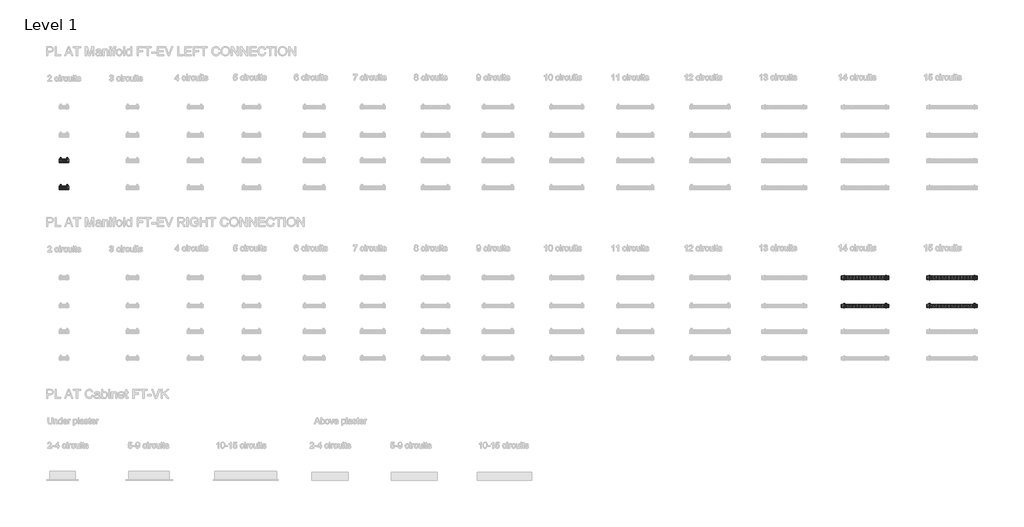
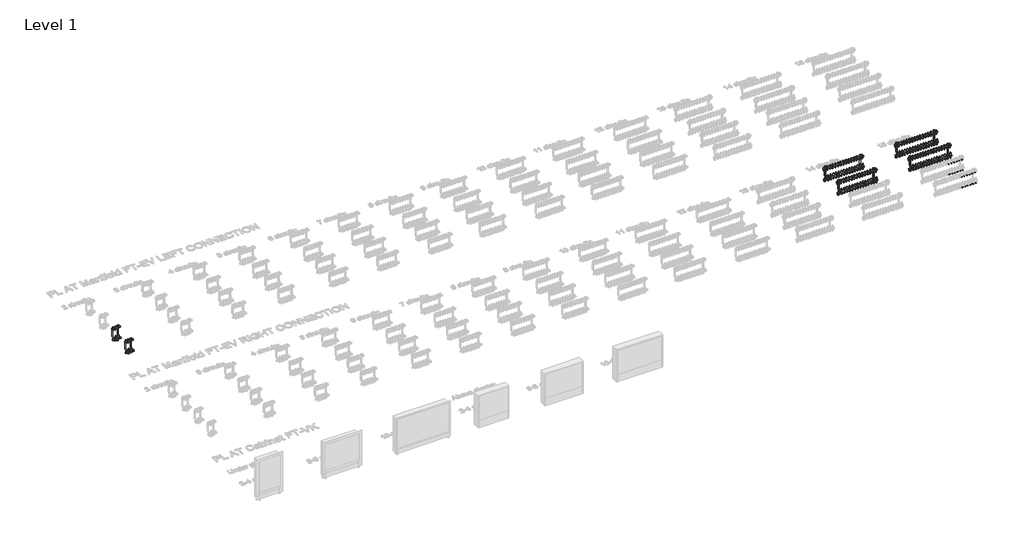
# One storey, part 7 of 23: 141 pipe fittings, 6 valves.
"""IFC4 building model written with IfcOpenShell, lengths in millimetres."""

from ifc_helpers import new_model, si_unit, origin, place, context, project, spatial, transform, mapped, element, save
from components import pipe_fitting_03c6499f, valve_7f0c1a37, valve_5ad404c9, valve_4cbf1be7, valve_3248c627, valve_ecf45875, valve_c563ffe1, valve_e7cc262d, valve_94d66b99, valve_c404d8d8

model = new_model("IFC4")

# Units and contexts
model_context = context("Model", 3, world=origin())
ifc_project = project(units=[si_unit("LENGTHUNIT", "METRE", prefix="MILLI")], contexts=[model_context])

# Site, building, storey
site = spatial("IfcSite", under=ifc_project)
building = spatial("IfcBuilding", under=site)
storey = spatial("IfcBuildingStorey", under=building, Name="Level 1", Elevation=0.0)

# Pipe fittings
placement = place(None, origin())
pipe_fitting_shape = pipe_fitting_03c6499f(model_context)
element("IfcPipeFitting", 1, ObjectType="Euroconus screwing for multilayer pipes - Manifold FT : Euroconus screwing for multilayer pipes - Manifold FT", at=placement, inside=storey, context=model_context, shape_type="MappedRepresentation", body=[
    mapped(pipe_fitting_shape, transform((1334.9796862, 755.3040686, 62.88733), x_axis=(0.0, 0.0, -1.0), y_axis=(0.0, 1.0000000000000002, 0.0), z_axis=(1.0000000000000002, 0.0, 0.0))),
])
element("IfcPipeFitting", 2, ObjectType="Euroconus screwing for multilayer pipes - Manifold FT : Euroconus screwing for multilayer pipes - Manifold FT", at=placement, inside=storey, context=model_context, shape_type="MappedRepresentation", body=[
    mapped(pipe_fitting_shape, transform((14760.6719939, -1164.6959314, 62.88733), x_axis=(0.0, 0.0, -1.0), y_axis=(0.0, 1.0000000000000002, 0.0), z_axis=(1.0000000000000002, 0.0, 0.0))),
])
element("IfcPipeFitting", 3, ObjectType="Euroconus screwing for multilayer pipes - Manifold FT : Euroconus screwing for multilayer pipes - Manifold FT", at=placement, inside=storey, context=model_context, shape_type="MappedRepresentation", body=[
    mapped(pipe_fitting_shape, transform((14708.3643015, -1164.6959314, 62.88733), x_axis=(0.0, 0.0, -1.0), y_axis=(0.0, 1.0000000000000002, 0.0), z_axis=(1.0000000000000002, 0.0, 0.0))),
])
element("IfcPipeFitting", 4, ObjectType="Euroconus screwing for multilayer pipes - Manifold FT : Euroconus screwing for multilayer pipes - Manifold FT", at=placement, inside=storey, context=model_context, shape_type="MappedRepresentation", body=[
    mapped(pipe_fitting_shape, transform((14656.0566092, -1164.6959314, 62.88733), x_axis=(0.0, 0.0, -1.0), y_axis=(0.0, 1.0000000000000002, 0.0), z_axis=(1.0000000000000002, 0.0, 0.0))),
])
element("IfcPipeFitting", 5, ObjectType="Euroconus screwing for multilayer pipes - Manifold FT : Euroconus screwing for multilayer pipes - Manifold FT", at=placement, inside=storey, context=model_context, shape_type="MappedRepresentation", body=[
    mapped(pipe_fitting_shape, transform((14603.7489169, -1164.6959314, 62.88733), x_axis=(0.0, 0.0, -1.0), y_axis=(0.0, 1.0000000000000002, 0.0), z_axis=(1.0000000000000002, 0.0, 0.0))),
])
element("IfcPipeFitting", 6, ObjectType="Euroconus screwing for multilayer pipes - Manifold FT : Euroconus screwing for multilayer pipes - Manifold FT", at=placement, inside=storey, context=model_context, shape_type="MappedRepresentation", body=[
    mapped(pipe_fitting_shape, transform((14551.4412246, -1164.6959314, 62.88733), x_axis=(0.0, 0.0, -1.0), y_axis=(0.0, 1.0000000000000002, 0.0), z_axis=(1.0000000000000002, 0.0, 0.0))),
])
element("IfcPipeFitting", 7, ObjectType="Euroconus screwing for multilayer pipes - Manifold FT : Euroconus screwing for multilayer pipes - Manifold FT", at=placement, inside=storey, context=model_context, shape_type="MappedRepresentation", body=[
    mapped(pipe_fitting_shape, transform((14499.1335323, -1164.6959314, 62.88733), x_axis=(0.0, 0.0, -1.0), y_axis=(0.0, 1.0000000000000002, 0.0), z_axis=(1.0000000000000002, 0.0, 0.0))),
])
element("IfcPipeFitting", 8, ObjectType="Euroconus screwing for multilayer pipes - Manifold FT : Euroconus screwing for multilayer pipes - Manifold FT", at=placement, inside=storey, context=model_context, shape_type="MappedRepresentation", body=[
    mapped(pipe_fitting_shape, transform((14446.82584, -1164.6959314, 62.88733), x_axis=(0.0, 0.0, -1.0), y_axis=(0.0, 1.0000000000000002, 0.0), z_axis=(1.0000000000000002, 0.0, 0.0))),
])
element("IfcPipeFitting", 9, ObjectType="Euroconus screwing for multilayer pipes - Manifold FT : Euroconus screwing for multilayer pipes - Manifold FT", at=placement, inside=storey, context=model_context, shape_type="MappedRepresentation", body=[
    mapped(pipe_fitting_shape, transform((14394.5181477, -1164.6959314, 62.88733), x_axis=(0.0, 0.0, -1.0), y_axis=(0.0, 1.0000000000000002, 0.0), z_axis=(1.0000000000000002, 0.0, 0.0))),
])
element("IfcPipeFitting", 10, ObjectType="Euroconus screwing for multilayer pipes - Manifold FT : Euroconus screwing for multilayer pipes - Manifold FT", at=placement, inside=storey, context=model_context, shape_type="MappedRepresentation", body=[
    mapped(pipe_fitting_shape, transform((14342.2104554, -1164.6959314, 62.88733), x_axis=(0.0, 0.0, -1.0), y_axis=(0.0, 1.0000000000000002, 0.0), z_axis=(1.0000000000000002, 0.0, 0.0))),
])
element("IfcPipeFitting", 11, ObjectType="Euroconus screwing for multilayer pipes - Manifold FT : Euroconus screwing for multilayer pipes - Manifold FT", at=placement, inside=storey, context=model_context, shape_type="MappedRepresentation", body=[
    mapped(pipe_fitting_shape, transform((14289.9027631, -1164.6959314, 62.88733), x_axis=(0.0, 0.0, -1.0), y_axis=(0.0, 1.0000000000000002, 0.0), z_axis=(1.0000000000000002, 0.0, 0.0))),
])
element("IfcPipeFitting", 12, ObjectType="Euroconus screwing for multilayer pipes - Manifold FT : Euroconus screwing for multilayer pipes - Manifold FT", at=placement, inside=storey, context=model_context, shape_type="MappedRepresentation", body=[
    mapped(pipe_fitting_shape, transform((14237.5950708, -1164.6959314, 62.88733), x_axis=(0.0, 0.0, -1.0), y_axis=(0.0, 1.0000000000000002, 0.0), z_axis=(1.0000000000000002, 0.0, 0.0))),
])
element("IfcPipeFitting", 13, ObjectType="Euroconus screwing for multilayer pipes - Manifold FT : Euroconus screwing for multilayer pipes - Manifold FT", at=placement, inside=storey, context=model_context, shape_type="MappedRepresentation", body=[
    mapped(pipe_fitting_shape, transform((14185.2873785, -1164.6959314, 62.88733), x_axis=(0.0, 0.0, -1.0), y_axis=(0.0, 1.0000000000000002, 0.0), z_axis=(1.0000000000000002, 0.0, 0.0))),
])
element("IfcPipeFitting", 14, ObjectType="Euroconus screwing for multilayer pipes - Manifold FT : Euroconus screwing for multilayer pipes - Manifold FT", at=placement, inside=storey, context=model_context, shape_type="MappedRepresentation", body=[
    mapped(pipe_fitting_shape, transform((14812.9796862, -1164.6959314, 62.88733), x_axis=(0.0, 0.0, -1.0), y_axis=(0.0, 1.0000000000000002, 0.0), z_axis=(1.0000000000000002, 0.0, 0.0))),
])
element("IfcPipeFitting", 15, ObjectType="Euroconus screwing for multilayer pipes - Manifold FT : Euroconus screwing for multilayer pipes - Manifold FT", at=placement, inside=storey, context=model_context, shape_type="MappedRepresentation", body=[
    mapped(pipe_fitting_shape, transform((14760.6719939, -1139.6959314, 262.88733), x_axis=(0.0, 0.0, -1.0), y_axis=(0.0, 1.0000000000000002, 0.0), z_axis=(1.0000000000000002, 0.0, 0.0))),
])
element("IfcPipeFitting", 16, ObjectType="Euroconus screwing for multilayer pipes - Manifold FT : Euroconus screwing for multilayer pipes - Manifold FT", at=placement, inside=storey, context=model_context, shape_type="MappedRepresentation", body=[
    mapped(pipe_fitting_shape, transform((14708.3643015, -1139.6959314, 262.88733), x_axis=(0.0, 0.0, -1.0), y_axis=(0.0, 1.0000000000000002, 0.0), z_axis=(1.0000000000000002, 0.0, 0.0))),
])
element("IfcPipeFitting", 17, ObjectType="Euroconus screwing for multilayer pipes - Manifold FT : Euroconus screwing for multilayer pipes - Manifold FT", at=placement, inside=storey, context=model_context, shape_type="MappedRepresentation", body=[
    mapped(pipe_fitting_shape, transform((14656.0566092, -1139.6959314, 262.88733), x_axis=(0.0, 0.0, -1.0), y_axis=(0.0, 1.0000000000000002, 0.0), z_axis=(1.0000000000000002, 0.0, 0.0))),
])
element("IfcPipeFitting", 18, ObjectType="Euroconus screwing for multilayer pipes - Manifold FT : Euroconus screwing for multilayer pipes - Manifold FT", at=placement, inside=storey, context=model_context, shape_type="MappedRepresentation", body=[
    mapped(pipe_fitting_shape, transform((14603.7489169, -1139.6959314, 262.88733), x_axis=(0.0, 0.0, -1.0), y_axis=(0.0, 1.0000000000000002, 0.0), z_axis=(1.0000000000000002, 0.0, 0.0))),
])
element("IfcPipeFitting", 19, ObjectType="Euroconus screwing for multilayer pipes - Manifold FT : Euroconus screwing for multilayer pipes - Manifold FT", at=placement, inside=storey, context=model_context, shape_type="MappedRepresentation", body=[
    mapped(pipe_fitting_shape, transform((14551.4412246, -1139.6959314, 262.88733), x_axis=(0.0, 0.0, -1.0), y_axis=(0.0, 1.0000000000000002, 0.0), z_axis=(1.0000000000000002, 0.0, 0.0))),
])
element("IfcPipeFitting", 20, ObjectType="Euroconus screwing for multilayer pipes - Manifold FT : Euroconus screwing for multilayer pipes - Manifold FT", at=placement, inside=storey, context=model_context, shape_type="MappedRepresentation", body=[
    mapped(pipe_fitting_shape, transform((14499.1335323, -1139.6959314, 262.88733), x_axis=(0.0, 0.0, -1.0), y_axis=(0.0, 1.0000000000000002, 0.0), z_axis=(1.0000000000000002, 0.0, 0.0))),
])
element("IfcPipeFitting", 21, ObjectType="Euroconus screwing for multilayer pipes - Manifold FT : Euroconus screwing for multilayer pipes - Manifold FT", at=placement, inside=storey, context=model_context, shape_type="MappedRepresentation", body=[
    mapped(pipe_fitting_shape, transform((14446.82584, -1139.6959314, 262.88733), x_axis=(0.0, 0.0, -1.0), y_axis=(0.0, 1.0000000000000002, 0.0), z_axis=(1.0000000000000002, 0.0, 0.0))),
])
element("IfcPipeFitting", 22, ObjectType="Euroconus screwing for multilayer pipes - Manifold FT : Euroconus screwing for multilayer pipes - Manifold FT", at=placement, inside=storey, context=model_context, shape_type="MappedRepresentation", body=[
    mapped(pipe_fitting_shape, transform((14394.5181477, -1139.6959314, 262.88733), x_axis=(0.0, 0.0, -1.0), y_axis=(0.0, 1.0000000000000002, 0.0), z_axis=(1.0000000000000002, 0.0, 0.0))),
])
element("IfcPipeFitting", 23, ObjectType="Euroconus screwing for multilayer pipes - Manifold FT : Euroconus screwing for multilayer pipes - Manifold FT", at=placement, inside=storey, context=model_context, shape_type="MappedRepresentation", body=[
    mapped(pipe_fitting_shape, transform((14342.2104554, -1139.6959314, 262.88733), x_axis=(0.0, 0.0, -1.0), y_axis=(0.0, 1.0000000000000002, 0.0), z_axis=(1.0000000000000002, 0.0, 0.0))),
])
element("IfcPipeFitting", 24, ObjectType="Euroconus screwing for multilayer pipes - Manifold FT : Euroconus screwing for multilayer pipes - Manifold FT", at=placement, inside=storey, context=model_context, shape_type="MappedRepresentation", body=[
    mapped(pipe_fitting_shape, transform((14289.9027631, -1139.6959314, 262.88733), x_axis=(0.0, 0.0, -1.0), y_axis=(0.0, 1.0000000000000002, 0.0), z_axis=(1.0000000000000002, 0.0, 0.0))),
])
element("IfcPipeFitting", 25, ObjectType="Euroconus screwing for multilayer pipes - Manifold FT : Euroconus screwing for multilayer pipes - Manifold FT", at=placement, inside=storey, context=model_context, shape_type="MappedRepresentation", body=[
    mapped(pipe_fitting_shape, transform((14237.5950708, -1139.6959314, 262.88733), x_axis=(0.0, 0.0, -1.0), y_axis=(0.0, 1.0000000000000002, 0.0), z_axis=(1.0000000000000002, 0.0, 0.0))),
])
element("IfcPipeFitting", 26, ObjectType="Euroconus screwing for multilayer pipes - Manifold FT : Euroconus screwing for multilayer pipes - Manifold FT", at=placement, inside=storey, context=model_context, shape_type="MappedRepresentation", body=[
    mapped(pipe_fitting_shape, transform((14185.2873785, -1139.6959314, 262.88733), x_axis=(0.0, 0.0, -1.0), y_axis=(0.0, 1.0000000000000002, 0.0), z_axis=(1.0000000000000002, 0.0, 0.0))),
])
element("IfcPipeFitting", 27, ObjectType="Euroconus screwing for multilayer pipes - Manifold FT : Euroconus screwing for multilayer pipes - Manifold FT", at=placement, inside=storey, context=model_context, shape_type="MappedRepresentation", body=[
    mapped(pipe_fitting_shape, transform((14812.9796862, -1139.6959314, 262.88733), x_axis=(0.0, 0.0, -1.0), y_axis=(0.0, 1.0000000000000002, 0.0), z_axis=(1.0000000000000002, 0.0, 0.0))),
])
element("IfcPipeFitting", 28, ObjectType="Euroconus screwing for multilayer pipes - Manifold FT : Euroconus screwing for multilayer pipes - Manifold FT", at=placement, inside=storey, context=model_context, shape_type="MappedRepresentation", body=[
    mapped(pipe_fitting_shape, transform((14132.9796862, -1164.6959314, 62.88733), x_axis=(0.0, 0.0, -1.0), y_axis=(0.0, 1.0000000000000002, 0.0), z_axis=(1.0000000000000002, 0.0, 0.0))),
])
element("IfcPipeFitting", 29, ObjectType="Euroconus screwing for multilayer pipes - Manifold FT : Euroconus screwing for multilayer pipes - Manifold FT", at=placement, inside=storey, context=model_context, shape_type="MappedRepresentation", body=[
    mapped(pipe_fitting_shape, transform((14132.9796862, -1139.6959314, 262.88733), x_axis=(0.0, 0.0, -1.0), y_axis=(0.0, 1.0000000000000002, 0.0), z_axis=(1.0000000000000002, 0.0, 0.0))),
])
element("IfcPipeFitting", 30, ObjectType="Euroconus screwing for multilayer pipes - Manifold FT : Euroconus screwing for multilayer pipes - Manifold FT", at=placement, inside=storey, context=model_context, shape_type="MappedRepresentation", body=[
    mapped(pipe_fitting_shape, transform((16210.836829, -1164.6959314, 62.88733), x_axis=(0.0, 0.0, -1.0), y_axis=(0.0, 1.0000000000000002, 0.0), z_axis=(1.0000000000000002, 0.0, 0.0))),
])
element("IfcPipeFitting", 31, ObjectType="Euroconus screwing for multilayer pipes - Manifold FT : Euroconus screwing for multilayer pipes - Manifold FT", at=placement, inside=storey, context=model_context, shape_type="MappedRepresentation", body=[
    mapped(pipe_fitting_shape, transform((16158.6939719, -1164.6959314, 62.88733), x_axis=(0.0, 0.0, -1.0), y_axis=(0.0, 1.0000000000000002, 0.0), z_axis=(1.0000000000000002, 0.0, 0.0))),
])
element("IfcPipeFitting", 32, ObjectType="Euroconus screwing for multilayer pipes - Manifold FT : Euroconus screwing for multilayer pipes - Manifold FT", at=placement, inside=storey, context=model_context, shape_type="MappedRepresentation", body=[
    mapped(pipe_fitting_shape, transform((16106.5511147, -1164.6959314, 62.88733), x_axis=(0.0, 0.0, -1.0), y_axis=(0.0, 1.0000000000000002, 0.0), z_axis=(1.0000000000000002, 0.0, 0.0))),
])
element("IfcPipeFitting", 33, ObjectType="Euroconus screwing for multilayer pipes - Manifold FT : Euroconus screwing for multilayer pipes - Manifold FT", at=placement, inside=storey, context=model_context, shape_type="MappedRepresentation", body=[
    mapped(pipe_fitting_shape, transform((16054.4082576, -1164.6959314, 62.88733), x_axis=(0.0, 0.0, -1.0), y_axis=(0.0, 1.0000000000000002, 0.0), z_axis=(1.0000000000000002, 0.0, 0.0))),
])
element("IfcPipeFitting", 34, ObjectType="Euroconus screwing for multilayer pipes - Manifold FT : Euroconus screwing for multilayer pipes - Manifold FT", at=placement, inside=storey, context=model_context, shape_type="MappedRepresentation", body=[
    mapped(pipe_fitting_shape, transform((16002.2654004, -1164.6959314, 62.88733), x_axis=(0.0, 0.0, -1.0), y_axis=(0.0, 1.0000000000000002, 0.0), z_axis=(1.0000000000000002, 0.0, 0.0))),
])
element("IfcPipeFitting", 35, ObjectType="Euroconus screwing for multilayer pipes - Manifold FT : Euroconus screwing for multilayer pipes - Manifold FT", at=placement, inside=storey, context=model_context, shape_type="MappedRepresentation", body=[
    mapped(pipe_fitting_shape, transform((15950.1225433, -1164.6959314, 62.88733), x_axis=(0.0, 0.0, -1.0), y_axis=(0.0, 1.0000000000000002, 0.0), z_axis=(1.0000000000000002, 0.0, 0.0))),
])
element("IfcPipeFitting", 36, ObjectType="Euroconus screwing for multilayer pipes - Manifold FT : Euroconus screwing for multilayer pipes - Manifold FT", at=placement, inside=storey, context=model_context, shape_type="MappedRepresentation", body=[
    mapped(pipe_fitting_shape, transform((15897.9796862, -1164.6959314, 62.88733), x_axis=(0.0, 0.0, -1.0), y_axis=(0.0, 1.0000000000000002, 0.0), z_axis=(1.0000000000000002, 0.0, 0.0))),
])
element("IfcPipeFitting", 37, ObjectType="Euroconus screwing for multilayer pipes - Manifold FT : Euroconus screwing for multilayer pipes - Manifold FT", at=placement, inside=storey, context=model_context, shape_type="MappedRepresentation", body=[
    mapped(pipe_fitting_shape, transform((15845.836829, -1164.6959314, 62.88733), x_axis=(0.0, 0.0, -1.0), y_axis=(0.0, 1.0000000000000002, 0.0), z_axis=(1.0000000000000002, 0.0, 0.0))),
])
element("IfcPipeFitting", 38, ObjectType="Euroconus screwing for multilayer pipes - Manifold FT : Euroconus screwing for multilayer pipes - Manifold FT", at=placement, inside=storey, context=model_context, shape_type="MappedRepresentation", body=[
    mapped(pipe_fitting_shape, transform((15793.6939719, -1164.6959314, 62.88733), x_axis=(0.0, 0.0, -1.0), y_axis=(0.0, 1.0000000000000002, 0.0), z_axis=(1.0000000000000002, 0.0, 0.0))),
])
element("IfcPipeFitting", 39, ObjectType="Euroconus screwing for multilayer pipes - Manifold FT : Euroconus screwing for multilayer pipes - Manifold FT", at=placement, inside=storey, context=model_context, shape_type="MappedRepresentation", body=[
    mapped(pipe_fitting_shape, transform((15741.5511147, -1164.6959314, 62.88733), x_axis=(0.0, 0.0, -1.0), y_axis=(0.0, 1.0000000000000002, 0.0), z_axis=(1.0000000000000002, 0.0, 0.0))),
])
element("IfcPipeFitting", 40, ObjectType="Euroconus screwing for multilayer pipes - Manifold FT : Euroconus screwing for multilayer pipes - Manifold FT", at=placement, inside=storey, context=model_context, shape_type="MappedRepresentation", body=[
    mapped(pipe_fitting_shape, transform((15689.4082576, -1164.6959314, 62.88733), x_axis=(0.0, 0.0, -1.0), y_axis=(0.0, 1.0000000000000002, 0.0), z_axis=(1.0000000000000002, 0.0, 0.0))),
])
element("IfcPipeFitting", 41, ObjectType="Euroconus screwing for multilayer pipes - Manifold FT : Euroconus screwing for multilayer pipes - Manifold FT", at=placement, inside=storey, context=model_context, shape_type="MappedRepresentation", body=[
    mapped(pipe_fitting_shape, transform((15637.2654004, -1164.6959314, 62.88733), x_axis=(0.0, 0.0, -1.0), y_axis=(0.0, 1.0000000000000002, 0.0), z_axis=(1.0000000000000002, 0.0, 0.0))),
])
element("IfcPipeFitting", 42, ObjectType="Euroconus screwing for multilayer pipes - Manifold FT : Euroconus screwing for multilayer pipes - Manifold FT", at=placement, inside=storey, context=model_context, shape_type="MappedRepresentation", body=[
    mapped(pipe_fitting_shape, transform((15585.1225433, -1164.6959314, 62.88733), x_axis=(0.0, 0.0, -1.0), y_axis=(0.0, 1.0000000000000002, 0.0), z_axis=(1.0000000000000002, 0.0, 0.0))),
])
element("IfcPipeFitting", 43, ObjectType="Euroconus screwing for multilayer pipes - Manifold FT : Euroconus screwing for multilayer pipes - Manifold FT", at=placement, inside=storey, context=model_context, shape_type="MappedRepresentation", body=[
    mapped(pipe_fitting_shape, transform((16262.9796862, -1164.6959314, 62.88733), x_axis=(0.0, 0.0, -1.0), y_axis=(0.0, 1.0000000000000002, 0.0), z_axis=(1.0000000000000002, 0.0, 0.0))),
])
element("IfcPipeFitting", 44, ObjectType="Euroconus screwing for multilayer pipes - Manifold FT : Euroconus screwing for multilayer pipes - Manifold FT", at=placement, inside=storey, context=model_context, shape_type="MappedRepresentation", body=[
    mapped(pipe_fitting_shape, transform((16210.836829, -1139.6959314, 262.88733), x_axis=(0.0, 0.0, -1.0), y_axis=(0.0, 1.0000000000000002, 0.0), z_axis=(1.0000000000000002, 0.0, 0.0))),
])
element("IfcPipeFitting", 45, ObjectType="Euroconus screwing for multilayer pipes - Manifold FT : Euroconus screwing for multilayer pipes - Manifold FT", at=placement, inside=storey, context=model_context, shape_type="MappedRepresentation", body=[
    mapped(pipe_fitting_shape, transform((16158.6939719, -1139.6959314, 262.88733), x_axis=(0.0, 0.0, -1.0), y_axis=(0.0, 1.0000000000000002, 0.0), z_axis=(1.0000000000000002, 0.0, 0.0))),
])
element("IfcPipeFitting", 46, ObjectType="Euroconus screwing for multilayer pipes - Manifold FT : Euroconus screwing for multilayer pipes - Manifold FT", at=placement, inside=storey, context=model_context, shape_type="MappedRepresentation", body=[
    mapped(pipe_fitting_shape, transform((16106.5511147, -1139.6959314, 262.88733), x_axis=(0.0, 0.0, -1.0), y_axis=(0.0, 1.0000000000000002, 0.0), z_axis=(1.0000000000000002, 0.0, 0.0))),
])
element("IfcPipeFitting", 47, ObjectType="Euroconus screwing for multilayer pipes - Manifold FT : Euroconus screwing for multilayer pipes - Manifold FT", at=placement, inside=storey, context=model_context, shape_type="MappedRepresentation", body=[
    mapped(pipe_fitting_shape, transform((16054.4082576, -1139.6959314, 262.88733), x_axis=(0.0, 0.0, -1.0), y_axis=(0.0, 1.0000000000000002, 0.0), z_axis=(1.0000000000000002, 0.0, 0.0))),
])
element("IfcPipeFitting", 48, ObjectType="Euroconus screwing for multilayer pipes - Manifold FT : Euroconus screwing for multilayer pipes - Manifold FT", at=placement, inside=storey, context=model_context, shape_type="MappedRepresentation", body=[
    mapped(pipe_fitting_shape, transform((16002.2654004, -1139.6959314, 262.88733), x_axis=(0.0, 0.0, -1.0), y_axis=(0.0, 1.0000000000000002, 0.0), z_axis=(1.0000000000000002, 0.0, 0.0))),
])
element("IfcPipeFitting", 49, ObjectType="Euroconus screwing for multilayer pipes - Manifold FT : Euroconus screwing for multilayer pipes - Manifold FT", at=placement, inside=storey, context=model_context, shape_type="MappedRepresentation", body=[
    mapped(pipe_fitting_shape, transform((15950.1225433, -1139.6959314, 262.88733), x_axis=(0.0, 0.0, -1.0), y_axis=(0.0, 1.0000000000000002, 0.0), z_axis=(1.0000000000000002, 0.0, 0.0))),
])
element("IfcPipeFitting", 50, ObjectType="Euroconus screwing for multilayer pipes - Manifold FT : Euroconus screwing for multilayer pipes - Manifold FT", at=placement, inside=storey, context=model_context, shape_type="MappedRepresentation", body=[
    mapped(pipe_fitting_shape, transform((15897.9796862, -1139.6959314, 262.88733), x_axis=(0.0, 0.0, -1.0), y_axis=(0.0, 1.0000000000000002, 0.0), z_axis=(1.0000000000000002, 0.0, 0.0))),
])
element("IfcPipeFitting", 51, ObjectType="Euroconus screwing for multilayer pipes - Manifold FT : Euroconus screwing for multilayer pipes - Manifold FT", at=placement, inside=storey, context=model_context, shape_type="MappedRepresentation", body=[
    mapped(pipe_fitting_shape, transform((15845.836829, -1139.6959314, 262.88733), x_axis=(0.0, 0.0, -1.0), y_axis=(0.0, 1.0000000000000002, 0.0), z_axis=(1.0000000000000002, 0.0, 0.0))),
])
element("IfcPipeFitting", 52, ObjectType="Euroconus screwing for multilayer pipes - Manifold FT : Euroconus screwing for multilayer pipes - Manifold FT", at=placement, inside=storey, context=model_context, shape_type="MappedRepresentation", body=[
    mapped(pipe_fitting_shape, transform((15793.6939719, -1139.6959314, 262.88733), x_axis=(0.0, 0.0, -1.0), y_axis=(0.0, 1.0000000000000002, 0.0), z_axis=(1.0000000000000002, 0.0, 0.0))),
])
element("IfcPipeFitting", 53, ObjectType="Euroconus screwing for multilayer pipes - Manifold FT : Euroconus screwing for multilayer pipes - Manifold FT", at=placement, inside=storey, context=model_context, shape_type="MappedRepresentation", body=[
    mapped(pipe_fitting_shape, transform((15741.5511147, -1139.6959314, 262.88733), x_axis=(0.0, 0.0, -1.0), y_axis=(0.0, 1.0000000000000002, 0.0), z_axis=(1.0000000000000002, 0.0, 0.0))),
])
element("IfcPipeFitting", 54, ObjectType="Euroconus screwing for multilayer pipes - Manifold FT : Euroconus screwing for multilayer pipes - Manifold FT", at=placement, inside=storey, context=model_context, shape_type="MappedRepresentation", body=[
    mapped(pipe_fitting_shape, transform((15689.4082576, -1139.6959314, 262.88733), x_axis=(0.0, 0.0, -1.0), y_axis=(0.0, 1.0000000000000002, 0.0), z_axis=(1.0000000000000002, 0.0, 0.0))),
])
element("IfcPipeFitting", 55, ObjectType="Euroconus screwing for multilayer pipes - Manifold FT : Euroconus screwing for multilayer pipes - Manifold FT", at=placement, inside=storey, context=model_context, shape_type="MappedRepresentation", body=[
    mapped(pipe_fitting_shape, transform((15637.2654004, -1139.6959314, 262.88733), x_axis=(0.0, 0.0, -1.0), y_axis=(0.0, 1.0000000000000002, 0.0), z_axis=(1.0000000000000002, 0.0, 0.0))),
])
element("IfcPipeFitting", 56, ObjectType="Euroconus screwing for multilayer pipes - Manifold FT : Euroconus screwing for multilayer pipes - Manifold FT", at=placement, inside=storey, context=model_context, shape_type="MappedRepresentation", body=[
    mapped(pipe_fitting_shape, transform((15585.1225433, -1139.6959314, 262.88733), x_axis=(0.0, 0.0, -1.0), y_axis=(0.0, 1.0000000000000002, 0.0), z_axis=(1.0000000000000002, 0.0, 0.0))),
])
element("IfcPipeFitting", 57, ObjectType="Euroconus screwing for multilayer pipes - Manifold FT : Euroconus screwing for multilayer pipes - Manifold FT", at=placement, inside=storey, context=model_context, shape_type="MappedRepresentation", body=[
    mapped(pipe_fitting_shape, transform((16262.9796862, -1139.6959314, 262.88733), x_axis=(0.0, 0.0, -1.0), y_axis=(0.0, 1.0000000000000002, 0.0), z_axis=(1.0000000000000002, 0.0, 0.0))),
])
element("IfcPipeFitting", 58, ObjectType="Euroconus screwing for multilayer pipes - Manifold FT : Euroconus screwing for multilayer pipes - Manifold FT", at=placement, inside=storey, context=model_context, shape_type="MappedRepresentation", body=[
    mapped(pipe_fitting_shape, transform((15532.9796862, -1164.6959314, 62.88733), x_axis=(0.0, 0.0, -1.0), y_axis=(0.0, 1.0000000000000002, 0.0), z_axis=(1.0000000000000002, 0.0, 0.0))),
])
element("IfcPipeFitting", 59, ObjectType="Euroconus screwing for multilayer pipes - Manifold FT : Euroconus screwing for multilayer pipes - Manifold FT", at=placement, inside=storey, context=model_context, shape_type="MappedRepresentation", body=[
    mapped(pipe_fitting_shape, transform((15532.9796862, -1139.6959314, 262.88733), x_axis=(0.0, 0.0, -1.0), y_axis=(0.0, 1.0000000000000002, 0.0), z_axis=(1.0000000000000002, 0.0, 0.0))),
])
element("IfcPipeFitting", 60, ObjectType="Euroconus screwing for multilayer pipes - Manifold FT : Euroconus screwing for multilayer pipes - Manifold FT", at=placement, inside=storey, context=model_context, shape_type="MappedRepresentation", body=[
    mapped(pipe_fitting_shape, transform((14760.6719939, -1624.6959314, 62.88733), x_axis=(0.0, 0.0, -1.0), y_axis=(0.0, 1.0000000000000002, 0.0), z_axis=(1.0000000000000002, 0.0, 0.0))),
])
element("IfcPipeFitting", 61, ObjectType="Euroconus screwing for multilayer pipes - Manifold FT : Euroconus screwing for multilayer pipes - Manifold FT", at=placement, inside=storey, context=model_context, shape_type="MappedRepresentation", body=[
    mapped(pipe_fitting_shape, transform((14708.3643015, -1624.6959314, 62.88733), x_axis=(0.0, 0.0, -1.0), y_axis=(0.0, 1.0000000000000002, 0.0), z_axis=(1.0000000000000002, 0.0, 0.0))),
])
element("IfcPipeFitting", 62, ObjectType="Euroconus screwing for multilayer pipes - Manifold FT : Euroconus screwing for multilayer pipes - Manifold FT", at=placement, inside=storey, context=model_context, shape_type="MappedRepresentation", body=[
    mapped(pipe_fitting_shape, transform((14656.0566092, -1624.6959314, 62.88733), x_axis=(0.0, 0.0, -1.0), y_axis=(0.0, 1.0000000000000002, 0.0), z_axis=(1.0000000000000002, 0.0, 0.0))),
])
element("IfcPipeFitting", 63, ObjectType="Euroconus screwing for multilayer pipes - Manifold FT : Euroconus screwing for multilayer pipes - Manifold FT", at=placement, inside=storey, context=model_context, shape_type="MappedRepresentation", body=[
    mapped(pipe_fitting_shape, transform((14603.7489169, -1624.6959314, 62.88733), x_axis=(0.0, 0.0, -1.0), y_axis=(0.0, 1.0000000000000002, 0.0), z_axis=(1.0000000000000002, 0.0, 0.0))),
])
element("IfcPipeFitting", 64, ObjectType="Euroconus screwing for multilayer pipes - Manifold FT : Euroconus screwing for multilayer pipes - Manifold FT", at=placement, inside=storey, context=model_context, shape_type="MappedRepresentation", body=[
    mapped(pipe_fitting_shape, transform((14551.4412246, -1624.6959314, 62.88733), x_axis=(0.0, 0.0, -1.0), y_axis=(0.0, 1.0000000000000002, 0.0), z_axis=(1.0000000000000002, 0.0, 0.0))),
])
element("IfcPipeFitting", 65, ObjectType="Euroconus screwing for multilayer pipes - Manifold FT : Euroconus screwing for multilayer pipes - Manifold FT", at=placement, inside=storey, context=model_context, shape_type="MappedRepresentation", body=[
    mapped(pipe_fitting_shape, transform((14499.1335323, -1624.6959314, 62.88733), x_axis=(0.0, 0.0, -1.0), y_axis=(0.0, 1.0000000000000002, 0.0), z_axis=(1.0000000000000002, 0.0, 0.0))),
])
element("IfcPipeFitting", 66, ObjectType="Euroconus screwing for multilayer pipes - Manifold FT : Euroconus screwing for multilayer pipes - Manifold FT", at=placement, inside=storey, context=model_context, shape_type="MappedRepresentation", body=[
    mapped(pipe_fitting_shape, transform((14446.82584, -1624.6959314, 62.88733), x_axis=(0.0, 0.0, -1.0), y_axis=(0.0, 1.0000000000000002, 0.0), z_axis=(1.0000000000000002, 0.0, 0.0))),
])
element("IfcPipeFitting", 67, ObjectType="Euroconus screwing for multilayer pipes - Manifold FT : Euroconus screwing for multilayer pipes - Manifold FT", at=placement, inside=storey, context=model_context, shape_type="MappedRepresentation", body=[
    mapped(pipe_fitting_shape, transform((14394.5181477, -1624.6959314, 62.88733), x_axis=(0.0, 0.0, -1.0), y_axis=(0.0, 1.0000000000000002, 0.0), z_axis=(1.0000000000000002, 0.0, 0.0))),
])
element("IfcPipeFitting", 68, ObjectType="Euroconus screwing for multilayer pipes - Manifold FT : Euroconus screwing for multilayer pipes - Manifold FT", at=placement, inside=storey, context=model_context, shape_type="MappedRepresentation", body=[
    mapped(pipe_fitting_shape, transform((14342.2104554, -1624.6959314, 62.88733), x_axis=(0.0, 0.0, -1.0), y_axis=(0.0, 1.0000000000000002, 0.0), z_axis=(1.0000000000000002, 0.0, 0.0))),
])
element("IfcPipeFitting", 69, ObjectType="Euroconus screwing for multilayer pipes - Manifold FT : Euroconus screwing for multilayer pipes - Manifold FT", at=placement, inside=storey, context=model_context, shape_type="MappedRepresentation", body=[
    mapped(pipe_fitting_shape, transform((14289.9027631, -1624.6959314, 62.88733), x_axis=(0.0, 0.0, -1.0), y_axis=(0.0, 1.0000000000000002, 0.0), z_axis=(1.0000000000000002, 0.0, 0.0))),
])
element("IfcPipeFitting", 70, ObjectType="Euroconus screwing for multilayer pipes - Manifold FT : Euroconus screwing for multilayer pipes - Manifold FT", at=placement, inside=storey, context=model_context, shape_type="MappedRepresentation", body=[
    mapped(pipe_fitting_shape, transform((14237.5950708, -1624.6959314, 62.88733), x_axis=(0.0, 0.0, -1.0), y_axis=(0.0, 1.0000000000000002, 0.0), z_axis=(1.0000000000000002, 0.0, 0.0))),
])
element("IfcPipeFitting", 71, ObjectType="Euroconus screwing for multilayer pipes - Manifold FT : Euroconus screwing for multilayer pipes - Manifold FT", at=placement, inside=storey, context=model_context, shape_type="MappedRepresentation", body=[
    mapped(pipe_fitting_shape, transform((14185.2873785, -1624.6959314, 62.88733), x_axis=(0.0, 0.0, -1.0), y_axis=(0.0, 1.0000000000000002, 0.0), z_axis=(1.0000000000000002, 0.0, 0.0))),
])
element("IfcPipeFitting", 72, ObjectType="Euroconus screwing for multilayer pipes - Manifold FT : Euroconus screwing for multilayer pipes - Manifold FT", at=placement, inside=storey, context=model_context, shape_type="MappedRepresentation", body=[
    mapped(pipe_fitting_shape, transform((14812.9796862, -1624.6959314, 62.88733), x_axis=(0.0, 0.0, -1.0), y_axis=(0.0, 1.0000000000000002, 0.0), z_axis=(1.0000000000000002, 0.0, 0.0))),
])
element("IfcPipeFitting", 73, ObjectType="Euroconus screwing for multilayer pipes - Manifold FT : Euroconus screwing for multilayer pipes - Manifold FT", at=placement, inside=storey, context=model_context, shape_type="MappedRepresentation", body=[
    mapped(pipe_fitting_shape, transform((14760.6719939, -1599.6959314, 262.88733), x_axis=(0.0, 0.0, -1.0), y_axis=(0.0, 1.0000000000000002, 0.0), z_axis=(1.0000000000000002, 0.0, 0.0))),
])
element("IfcPipeFitting", 74, ObjectType="Euroconus screwing for multilayer pipes - Manifold FT : Euroconus screwing for multilayer pipes - Manifold FT", at=placement, inside=storey, context=model_context, shape_type="MappedRepresentation", body=[
    mapped(pipe_fitting_shape, transform((14708.3643015, -1599.6959314, 262.88733), x_axis=(0.0, 0.0, -1.0), y_axis=(0.0, 1.0000000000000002, 0.0), z_axis=(1.0000000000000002, 0.0, 0.0))),
])
element("IfcPipeFitting", 75, ObjectType="Euroconus screwing for multilayer pipes - Manifold FT : Euroconus screwing for multilayer pipes - Manifold FT", at=placement, inside=storey, context=model_context, shape_type="MappedRepresentation", body=[
    mapped(pipe_fitting_shape, transform((14656.0566092, -1599.6959314, 262.88733), x_axis=(0.0, 0.0, -1.0), y_axis=(0.0, 1.0000000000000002, 0.0), z_axis=(1.0000000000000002, 0.0, 0.0))),
])
element("IfcPipeFitting", 76, ObjectType="Euroconus screwing for multilayer pipes - Manifold FT : Euroconus screwing for multilayer pipes - Manifold FT", at=placement, inside=storey, context=model_context, shape_type="MappedRepresentation", body=[
    mapped(pipe_fitting_shape, transform((14603.7489169, -1599.6959314, 262.88733), x_axis=(0.0, 0.0, -1.0), y_axis=(0.0, 1.0000000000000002, 0.0), z_axis=(1.0000000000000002, 0.0, 0.0))),
])
element("IfcPipeFitting", 77, ObjectType="Euroconus screwing for multilayer pipes - Manifold FT : Euroconus screwing for multilayer pipes - Manifold FT", at=placement, inside=storey, context=model_context, shape_type="MappedRepresentation", body=[
    mapped(pipe_fitting_shape, transform((14551.4412246, -1599.6959314, 262.88733), x_axis=(0.0, 0.0, -1.0), y_axis=(0.0, 1.0000000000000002, 0.0), z_axis=(1.0000000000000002, 0.0, 0.0))),
])
element("IfcPipeFitting", 78, ObjectType="Euroconus screwing for multilayer pipes - Manifold FT : Euroconus screwing for multilayer pipes - Manifold FT", at=placement, inside=storey, context=model_context, shape_type="MappedRepresentation", body=[
    mapped(pipe_fitting_shape, transform((14499.1335323, -1599.6959314, 262.88733), x_axis=(0.0, 0.0, -1.0), y_axis=(0.0, 1.0000000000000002, 0.0), z_axis=(1.0000000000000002, 0.0, 0.0))),
])
element("IfcPipeFitting", 79, ObjectType="Euroconus screwing for multilayer pipes - Manifold FT : Euroconus screwing for multilayer pipes - Manifold FT", at=placement, inside=storey, context=model_context, shape_type="MappedRepresentation", body=[
    mapped(pipe_fitting_shape, transform((14446.82584, -1599.6959314, 262.88733), x_axis=(0.0, 0.0, -1.0), y_axis=(0.0, 1.0000000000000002, 0.0), z_axis=(1.0000000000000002, 0.0, 0.0))),
])
element("IfcPipeFitting", 80, ObjectType="Euroconus screwing for multilayer pipes - Manifold FT : Euroconus screwing for multilayer pipes - Manifold FT", at=placement, inside=storey, context=model_context, shape_type="MappedRepresentation", body=[
    mapped(pipe_fitting_shape, transform((14394.5181477, -1599.6959314, 262.88733), x_axis=(0.0, 0.0, -1.0), y_axis=(0.0, 1.0000000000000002, 0.0), z_axis=(1.0000000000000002, 0.0, 0.0))),
])
element("IfcPipeFitting", 81, ObjectType="Euroconus screwing for multilayer pipes - Manifold FT : Euroconus screwing for multilayer pipes - Manifold FT", at=placement, inside=storey, context=model_context, shape_type="MappedRepresentation", body=[
    mapped(pipe_fitting_shape, transform((14342.2104554, -1599.6959314, 262.88733), x_axis=(0.0, 0.0, -1.0), y_axis=(0.0, 1.0000000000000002, 0.0), z_axis=(1.0000000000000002, 0.0, 0.0))),
])
element("IfcPipeFitting", 82, ObjectType="Euroconus screwing for multilayer pipes - Manifold FT : Euroconus screwing for multilayer pipes - Manifold FT", at=placement, inside=storey, context=model_context, shape_type="MappedRepresentation", body=[
    mapped(pipe_fitting_shape, transform((14289.9027631, -1599.6959314, 262.88733), x_axis=(0.0, 0.0, -1.0), y_axis=(0.0, 1.0000000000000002, 0.0), z_axis=(1.0000000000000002, 0.0, 0.0))),
])
element("IfcPipeFitting", 83, ObjectType="Euroconus screwing for multilayer pipes - Manifold FT : Euroconus screwing for multilayer pipes - Manifold FT", at=placement, inside=storey, context=model_context, shape_type="MappedRepresentation", body=[
    mapped(pipe_fitting_shape, transform((14237.5950708, -1599.6959314, 262.88733), x_axis=(0.0, 0.0, -1.0), y_axis=(0.0, 1.0000000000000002, 0.0), z_axis=(1.0000000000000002, 0.0, 0.0))),
])
element("IfcPipeFitting", 84, ObjectType="Euroconus screwing for multilayer pipes - Manifold FT : Euroconus screwing for multilayer pipes - Manifold FT", at=placement, inside=storey, context=model_context, shape_type="MappedRepresentation", body=[
    mapped(pipe_fitting_shape, transform((14185.2873785, -1599.6959314, 262.88733), x_axis=(0.0, 0.0, -1.0), y_axis=(0.0, 1.0000000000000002, 0.0), z_axis=(1.0000000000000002, 0.0, 0.0))),
])
element("IfcPipeFitting", 85, ObjectType="Euroconus screwing for multilayer pipes - Manifold FT : Euroconus screwing for multilayer pipes - Manifold FT", at=placement, inside=storey, context=model_context, shape_type="MappedRepresentation", body=[
    mapped(pipe_fitting_shape, transform((14812.9796862, -1599.6959314, 262.88733), x_axis=(0.0, 0.0, -1.0), y_axis=(0.0, 1.0000000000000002, 0.0), z_axis=(1.0000000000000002, 0.0, 0.0))),
])
element("IfcPipeFitting", 86, ObjectType="Euroconus screwing for multilayer pipes - Manifold FT : Euroconus screwing for multilayer pipes - Manifold FT", at=placement, inside=storey, context=model_context, shape_type="MappedRepresentation", body=[
    mapped(pipe_fitting_shape, transform((14132.9796862, -1624.6959314, 62.88733), x_axis=(0.0, 0.0, -1.0), y_axis=(0.0, 1.0000000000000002, 0.0), z_axis=(1.0000000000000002, 0.0, 0.0))),
])
element("IfcPipeFitting", 87, ObjectType="Euroconus screwing for multilayer pipes - Manifold FT : Euroconus screwing for multilayer pipes - Manifold FT", at=placement, inside=storey, context=model_context, shape_type="MappedRepresentation", body=[
    mapped(pipe_fitting_shape, transform((14132.9796862, -1599.6959314, 262.88733), x_axis=(0.0, 0.0, -1.0), y_axis=(0.0, 1.0000000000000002, 0.0), z_axis=(1.0000000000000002, 0.0, 0.0))),
])
element("IfcPipeFitting", 88, ObjectType="Euroconus screwing for multilayer pipes - Manifold FT : Euroconus screwing for multilayer pipes - Manifold FT", at=placement, inside=storey, context=model_context, shape_type="MappedRepresentation", body=[
    mapped(pipe_fitting_shape, transform((16210.836829, -1624.6959314, 62.88733), x_axis=(0.0, 0.0, -1.0), y_axis=(0.0, 1.0000000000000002, 0.0), z_axis=(1.0000000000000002, 0.0, 0.0))),
])
element("IfcPipeFitting", 89, ObjectType="Euroconus screwing for multilayer pipes - Manifold FT : Euroconus screwing for multilayer pipes - Manifold FT", at=placement, inside=storey, context=model_context, shape_type="MappedRepresentation", body=[
    mapped(pipe_fitting_shape, transform((16158.6939719, -1624.6959314, 62.88733), x_axis=(0.0, 0.0, -1.0), y_axis=(0.0, 1.0000000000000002, 0.0), z_axis=(1.0000000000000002, 0.0, 0.0))),
])
element("IfcPipeFitting", 90, ObjectType="Euroconus screwing for multilayer pipes - Manifold FT : Euroconus screwing for multilayer pipes - Manifold FT", at=placement, inside=storey, context=model_context, shape_type="MappedRepresentation", body=[
    mapped(pipe_fitting_shape, transform((16106.5511147, -1624.6959314, 62.88733), x_axis=(0.0, 0.0, -1.0), y_axis=(0.0, 1.0000000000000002, 0.0), z_axis=(1.0000000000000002, 0.0, 0.0))),
])
element("IfcPipeFitting", 91, ObjectType="Euroconus screwing for multilayer pipes - Manifold FT : Euroconus screwing for multilayer pipes - Manifold FT", at=placement, inside=storey, context=model_context, shape_type="MappedRepresentation", body=[
    mapped(pipe_fitting_shape, transform((16054.4082576, -1624.6959314, 62.88733), x_axis=(0.0, 0.0, -1.0), y_axis=(0.0, 1.0000000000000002, 0.0), z_axis=(1.0000000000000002, 0.0, 0.0))),
])
element("IfcPipeFitting", 92, ObjectType="Euroconus screwing for multilayer pipes - Manifold FT : Euroconus screwing for multilayer pipes - Manifold FT", at=placement, inside=storey, context=model_context, shape_type="MappedRepresentation", body=[
    mapped(pipe_fitting_shape, transform((16002.2654004, -1624.6959314, 62.88733), x_axis=(0.0, 0.0, -1.0), y_axis=(0.0, 1.0000000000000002, 0.0), z_axis=(1.0000000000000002, 0.0, 0.0))),
])
element("IfcPipeFitting", 93, ObjectType="Euroconus screwing for multilayer pipes - Manifold FT : Euroconus screwing for multilayer pipes - Manifold FT", at=placement, inside=storey, context=model_context, shape_type="MappedRepresentation", body=[
    mapped(pipe_fitting_shape, transform((15950.1225433, -1624.6959314, 62.88733), x_axis=(0.0, 0.0, -1.0), y_axis=(0.0, 1.0000000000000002, 0.0), z_axis=(1.0000000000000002, 0.0, 0.0))),
])
element("IfcPipeFitting", 94, ObjectType="Euroconus screwing for multilayer pipes - Manifold FT : Euroconus screwing for multilayer pipes - Manifold FT", at=placement, inside=storey, context=model_context, shape_type="MappedRepresentation", body=[
    mapped(pipe_fitting_shape, transform((15897.9796862, -1624.6959314, 62.88733), x_axis=(0.0, 0.0, -1.0), y_axis=(0.0, 1.0000000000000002, 0.0), z_axis=(1.0000000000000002, 0.0, 0.0))),
])
element("IfcPipeFitting", 95, ObjectType="Euroconus screwing for multilayer pipes - Manifold FT : Euroconus screwing for multilayer pipes - Manifold FT", at=placement, inside=storey, context=model_context, shape_type="MappedRepresentation", body=[
    mapped(pipe_fitting_shape, transform((15845.836829, -1624.6959314, 62.88733), x_axis=(0.0, 0.0, -1.0), y_axis=(0.0, 1.0000000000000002, 0.0), z_axis=(1.0000000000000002, 0.0, 0.0))),
])
element("IfcPipeFitting", 96, ObjectType="Euroconus screwing for multilayer pipes - Manifold FT : Euroconus screwing for multilayer pipes - Manifold FT", at=placement, inside=storey, context=model_context, shape_type="MappedRepresentation", body=[
    mapped(pipe_fitting_shape, transform((15793.6939719, -1624.6959314, 62.88733), x_axis=(0.0, 0.0, -1.0), y_axis=(0.0, 1.0000000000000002, 0.0), z_axis=(1.0000000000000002, 0.0, 0.0))),
])
element("IfcPipeFitting", 97, ObjectType="Euroconus screwing for multilayer pipes - Manifold FT : Euroconus screwing for multilayer pipes - Manifold FT", at=placement, inside=storey, context=model_context, shape_type="MappedRepresentation", body=[
    mapped(pipe_fitting_shape, transform((15741.5511147, -1624.6959314, 62.88733), x_axis=(0.0, 0.0, -1.0), y_axis=(0.0, 1.0000000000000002, 0.0), z_axis=(1.0000000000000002, 0.0, 0.0))),
])
element("IfcPipeFitting", 98, ObjectType="Euroconus screwing for multilayer pipes - Manifold FT : Euroconus screwing for multilayer pipes - Manifold FT", at=placement, inside=storey, context=model_context, shape_type="MappedRepresentation", body=[
    mapped(pipe_fitting_shape, transform((15689.4082576, -1624.6959314, 62.88733), x_axis=(0.0, 0.0, -1.0), y_axis=(0.0, 1.0000000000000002, 0.0), z_axis=(1.0000000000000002, 0.0, 0.0))),
])
element("IfcPipeFitting", 99, ObjectType="Euroconus screwing for multilayer pipes - Manifold FT : Euroconus screwing for multilayer pipes - Manifold FT", at=placement, inside=storey, context=model_context, shape_type="MappedRepresentation", body=[
    mapped(pipe_fitting_shape, transform((15637.2654004, -1624.6959314, 62.88733), x_axis=(0.0, 0.0, -1.0), y_axis=(0.0, 1.0000000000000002, 0.0), z_axis=(1.0000000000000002, 0.0, 0.0))),
])
element("IfcPipeFitting", 100, ObjectType="Euroconus screwing for multilayer pipes - Manifold FT : Euroconus screwing for multilayer pipes - Manifold FT", at=placement, inside=storey, context=model_context, shape_type="MappedRepresentation", body=[
    mapped(pipe_fitting_shape, transform((15585.1225433, -1624.6959314, 62.88733), x_axis=(0.0, 0.0, -1.0), y_axis=(0.0, 1.0000000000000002, 0.0), z_axis=(1.0000000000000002, 0.0, 0.0))),
])
element("IfcPipeFitting", 101, ObjectType="Euroconus screwing for multilayer pipes - Manifold FT : Euroconus screwing for multilayer pipes - Manifold FT", at=placement, inside=storey, context=model_context, shape_type="MappedRepresentation", body=[
    mapped(pipe_fitting_shape, transform((16262.9796862, -1624.6959314, 62.88733), x_axis=(0.0, 0.0, -1.0), y_axis=(0.0, 1.0000000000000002, 0.0), z_axis=(1.0000000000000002, 0.0, 0.0))),
])
element("IfcPipeFitting", 102, ObjectType="Euroconus screwing for multilayer pipes - Manifold FT : Euroconus screwing for multilayer pipes - Manifold FT", at=placement, inside=storey, context=model_context, shape_type="MappedRepresentation", body=[
    mapped(pipe_fitting_shape, transform((16210.836829, -1599.6959314, 262.88733), x_axis=(0.0, 0.0, -1.0), y_axis=(0.0, 1.0000000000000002, 0.0), z_axis=(1.0000000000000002, 0.0, 0.0))),
])
element("IfcPipeFitting", 103, ObjectType="Euroconus screwing for multilayer pipes - Manifold FT : Euroconus screwing for multilayer pipes - Manifold FT", at=placement, inside=storey, context=model_context, shape_type="MappedRepresentation", body=[
    mapped(pipe_fitting_shape, transform((16158.6939719, -1599.6959314, 262.88733), x_axis=(0.0, 0.0, -1.0), y_axis=(0.0, 1.0000000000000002, 0.0), z_axis=(1.0000000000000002, 0.0, 0.0))),
])
element("IfcPipeFitting", 104, ObjectType="Euroconus screwing for multilayer pipes - Manifold FT : Euroconus screwing for multilayer pipes - Manifold FT", at=placement, inside=storey, context=model_context, shape_type="MappedRepresentation", body=[
    mapped(pipe_fitting_shape, transform((16106.5511147, -1599.6959314, 262.88733), x_axis=(0.0, 0.0, -1.0), y_axis=(0.0, 1.0000000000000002, 0.0), z_axis=(1.0000000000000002, 0.0, 0.0))),
])
element("IfcPipeFitting", 105, ObjectType="Euroconus screwing for multilayer pipes - Manifold FT : Euroconus screwing for multilayer pipes - Manifold FT", at=placement, inside=storey, context=model_context, shape_type="MappedRepresentation", body=[
    mapped(pipe_fitting_shape, transform((16054.4082576, -1599.6959314, 262.88733), x_axis=(0.0, 0.0, -1.0), y_axis=(0.0, 1.0000000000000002, 0.0), z_axis=(1.0000000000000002, 0.0, 0.0))),
])
element("IfcPipeFitting", 106, ObjectType="Euroconus screwing for multilayer pipes - Manifold FT : Euroconus screwing for multilayer pipes - Manifold FT", at=placement, inside=storey, context=model_context, shape_type="MappedRepresentation", body=[
    mapped(pipe_fitting_shape, transform((16002.2654004, -1599.6959314, 262.88733), x_axis=(0.0, 0.0, -1.0), y_axis=(0.0, 1.0000000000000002, 0.0), z_axis=(1.0000000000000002, 0.0, 0.0))),
])
element("IfcPipeFitting", 107, ObjectType="Euroconus screwing for multilayer pipes - Manifold FT : Euroconus screwing for multilayer pipes - Manifold FT", at=placement, inside=storey, context=model_context, shape_type="MappedRepresentation", body=[
    mapped(pipe_fitting_shape, transform((15950.1225433, -1599.6959314, 262.88733), x_axis=(0.0, 0.0, -1.0), y_axis=(0.0, 1.0000000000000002, 0.0), z_axis=(1.0000000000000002, 0.0, 0.0))),
])
element("IfcPipeFitting", 108, ObjectType="Euroconus screwing for multilayer pipes - Manifold FT : Euroconus screwing for multilayer pipes - Manifold FT", at=placement, inside=storey, context=model_context, shape_type="MappedRepresentation", body=[
    mapped(pipe_fitting_shape, transform((15897.9796862, -1599.6959314, 262.88733), x_axis=(0.0, 0.0, -1.0), y_axis=(0.0, 1.0000000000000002, 0.0), z_axis=(1.0000000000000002, 0.0, 0.0))),
])
element("IfcPipeFitting", 109, ObjectType="Euroconus screwing for multilayer pipes - Manifold FT : Euroconus screwing for multilayer pipes - Manifold FT", at=placement, inside=storey, context=model_context, shape_type="MappedRepresentation", body=[
    mapped(pipe_fitting_shape, transform((15845.836829, -1599.6959314, 262.88733), x_axis=(0.0, 0.0, -1.0), y_axis=(0.0, 1.0000000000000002, 0.0), z_axis=(1.0000000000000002, 0.0, 0.0))),
])
element("IfcPipeFitting", 110, ObjectType="Euroconus screwing for multilayer pipes - Manifold FT : Euroconus screwing for multilayer pipes - Manifold FT", at=placement, inside=storey, context=model_context, shape_type="MappedRepresentation", body=[
    mapped(pipe_fitting_shape, transform((15793.6939719, -1599.6959314, 262.88733), x_axis=(0.0, 0.0, -1.0), y_axis=(0.0, 1.0000000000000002, 0.0), z_axis=(1.0000000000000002, 0.0, 0.0))),
])
element("IfcPipeFitting", 111, ObjectType="Euroconus screwing for multilayer pipes - Manifold FT : Euroconus screwing for multilayer pipes - Manifold FT", at=placement, inside=storey, context=model_context, shape_type="MappedRepresentation", body=[
    mapped(pipe_fitting_shape, transform((15741.5511147, -1599.6959314, 262.88733), x_axis=(0.0, 0.0, -1.0), y_axis=(0.0, 1.0000000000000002, 0.0), z_axis=(1.0000000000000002, 0.0, 0.0))),
])
element("IfcPipeFitting", 112, ObjectType="Euroconus screwing for multilayer pipes - Manifold FT : Euroconus screwing for multilayer pipes - Manifold FT", at=placement, inside=storey, context=model_context, shape_type="MappedRepresentation", body=[
    mapped(pipe_fitting_shape, transform((15689.4082576, -1599.6959314, 262.88733), x_axis=(0.0, 0.0, -1.0), y_axis=(0.0, 1.0000000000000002, 0.0), z_axis=(1.0000000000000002, 0.0, 0.0))),
])
element("IfcPipeFitting", 113, ObjectType="Euroconus screwing for multilayer pipes - Manifold FT : Euroconus screwing for multilayer pipes - Manifold FT", at=placement, inside=storey, context=model_context, shape_type="MappedRepresentation", body=[
    mapped(pipe_fitting_shape, transform((15637.2654004, -1599.6959314, 262.88733), x_axis=(0.0, 0.0, -1.0), y_axis=(0.0, 1.0000000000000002, 0.0), z_axis=(1.0000000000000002, 0.0, 0.0))),
])
element("IfcPipeFitting", 114, ObjectType="Euroconus screwing for multilayer pipes - Manifold FT : Euroconus screwing for multilayer pipes - Manifold FT", at=placement, inside=storey, context=model_context, shape_type="MappedRepresentation", body=[
    mapped(pipe_fitting_shape, transform((15585.1225433, -1599.6959314, 262.88733), x_axis=(0.0, 0.0, -1.0), y_axis=(0.0, 1.0000000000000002, 0.0), z_axis=(1.0000000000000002, 0.0, 0.0))),
])
element("IfcPipeFitting", 115, ObjectType="Euroconus screwing for multilayer pipes - Manifold FT : Euroconus screwing for multilayer pipes - Manifold FT", at=placement, inside=storey, context=model_context, shape_type="MappedRepresentation", body=[
    mapped(pipe_fitting_shape, transform((16262.9796862, -1599.6959314, 262.88733), x_axis=(0.0, 0.0, -1.0), y_axis=(0.0, 1.0000000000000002, 0.0), z_axis=(1.0000000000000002, 0.0, 0.0))),
])
element("IfcPipeFitting", 116, ObjectType="Euroconus screwing for multilayer pipes - Manifold FT : Euroconus screwing for multilayer pipes - Manifold FT", at=placement, inside=storey, context=model_context, shape_type="MappedRepresentation", body=[
    mapped(pipe_fitting_shape, transform((15532.9796862, -1624.6959314, 62.88733), x_axis=(0.0, 0.0, -1.0), y_axis=(0.0, 1.0000000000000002, 0.0), z_axis=(1.0000000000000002, 0.0, 0.0))),
])
element("IfcPipeFitting", 117, ObjectType="Euroconus screwing for multilayer pipes - Manifold FT : Euroconus screwing for multilayer pipes - Manifold FT", at=placement, inside=storey, context=model_context, shape_type="MappedRepresentation", body=[
    mapped(pipe_fitting_shape, transform((15532.9796862, -1599.6959314, 262.88733), x_axis=(0.0, 0.0, -1.0), y_axis=(0.0, 1.0000000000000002, 0.0), z_axis=(1.0000000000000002, 0.0, 0.0))),
])
element("IfcPipeFitting", 118, ObjectType="Euroconus screwing for multilayer pipes - Manifold FT : Euroconus screwing for multilayer pipes - Manifold FT", at=placement, inside=storey, context=model_context, shape_type="MappedRepresentation", body=[
    mapped(pipe_fitting_shape, transform((16210.836829, -2044.6959314, 62.88733), x_axis=(0.0, 0.0, -1.0), y_axis=(0.0, 1.0000000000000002, 0.0), z_axis=(1.0000000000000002, 0.0, 0.0))),
])
element("IfcPipeFitting", 119, ObjectType="Euroconus screwing for multilayer pipes - Manifold FT : Euroconus screwing for multilayer pipes - Manifold FT", at=placement, inside=storey, context=model_context, shape_type="MappedRepresentation", body=[
    mapped(pipe_fitting_shape, transform((16158.6939719, -2044.6959314, 62.88733), x_axis=(0.0, 0.0, -1.0), y_axis=(0.0, 1.0000000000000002, 0.0), z_axis=(1.0000000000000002, 0.0, 0.0))),
])
element("IfcPipeFitting", 120, ObjectType="Euroconus screwing for multilayer pipes - Manifold FT : Euroconus screwing for multilayer pipes - Manifold FT", at=placement, inside=storey, context=model_context, shape_type="MappedRepresentation", body=[
    mapped(pipe_fitting_shape, transform((16106.5511147, -2044.6959314, 62.88733), x_axis=(0.0, 0.0, -1.0), y_axis=(0.0, 1.0000000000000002, 0.0), z_axis=(1.0000000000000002, 0.0, 0.0))),
])
element("IfcPipeFitting", 121, ObjectType="Euroconus screwing for multilayer pipes - Manifold FT : Euroconus screwing for multilayer pipes - Manifold FT", at=placement, inside=storey, context=model_context, shape_type="MappedRepresentation", body=[
    mapped(pipe_fitting_shape, transform((16054.4082576, -2044.6959314, 62.88733), x_axis=(0.0, 0.0, -1.0), y_axis=(0.0, 1.0000000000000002, 0.0), z_axis=(1.0000000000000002, 0.0, 0.0))),
])
element("IfcPipeFitting", 122, ObjectType="Euroconus screwing for multilayer pipes - Manifold FT : Euroconus screwing for multilayer pipes - Manifold FT", at=placement, inside=storey, context=model_context, shape_type="MappedRepresentation", body=[
    mapped(pipe_fitting_shape, transform((16002.2654004, -2044.6959314, 62.88733), x_axis=(0.0, 0.0, -1.0), y_axis=(0.0, 1.0000000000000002, 0.0), z_axis=(1.0000000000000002, 0.0, 0.0))),
])
element("IfcPipeFitting", 123, ObjectType="Euroconus screwing for multilayer pipes - Manifold FT : Euroconus screwing for multilayer pipes - Manifold FT", at=placement, inside=storey, context=model_context, shape_type="MappedRepresentation", body=[
    mapped(pipe_fitting_shape, transform((16262.9796862, -2044.6959314, 62.88733), x_axis=(0.0, 0.0, -1.0), y_axis=(0.0, 1.0000000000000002, 0.0), z_axis=(1.0000000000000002, 0.0, 0.0))),
])
element("IfcPipeFitting", 124, ObjectType="Euroconus screwing for multilayer pipes - Manifold FT : Euroconus screwing for multilayer pipes - Manifold FT", at=placement, inside=storey, context=model_context, shape_type="MappedRepresentation", body=[
    mapped(pipe_fitting_shape, transform((16210.836829, -2019.6959314, 262.88733), x_axis=(0.0, 0.0, -1.0), y_axis=(0.0, 1.0000000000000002, 0.0), z_axis=(1.0000000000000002, 0.0, 0.0))),
])
element("IfcPipeFitting", 125, ObjectType="Euroconus screwing for multilayer pipes - Manifold FT : Euroconus screwing for multilayer pipes - Manifold FT", at=placement, inside=storey, context=model_context, shape_type="MappedRepresentation", body=[
    mapped(pipe_fitting_shape, transform((16158.6939719, -2019.6959314, 262.88733), x_axis=(0.0, 0.0, -1.0), y_axis=(0.0, 1.0000000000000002, 0.0), z_axis=(1.0000000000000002, 0.0, 0.0))),
])
element("IfcPipeFitting", 126, ObjectType="Euroconus screwing for multilayer pipes - Manifold FT : Euroconus screwing for multilayer pipes - Manifold FT", at=placement, inside=storey, context=model_context, shape_type="MappedRepresentation", body=[
    mapped(pipe_fitting_shape, transform((16106.5511147, -2019.6959314, 262.88733), x_axis=(0.0, 0.0, -1.0), y_axis=(0.0, 1.0000000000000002, 0.0), z_axis=(1.0000000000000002, 0.0, 0.0))),
])
element("IfcPipeFitting", 127, ObjectType="Euroconus screwing for multilayer pipes - Manifold FT : Euroconus screwing for multilayer pipes - Manifold FT", at=placement, inside=storey, context=model_context, shape_type="MappedRepresentation", body=[
    mapped(pipe_fitting_shape, transform((16054.4082576, -2019.6959314, 262.88733), x_axis=(0.0, 0.0, -1.0), y_axis=(0.0, 1.0000000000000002, 0.0), z_axis=(1.0000000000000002, 0.0, 0.0))),
])
element("IfcPipeFitting", 128, ObjectType="Euroconus screwing for multilayer pipes - Manifold FT : Euroconus screwing for multilayer pipes - Manifold FT", at=placement, inside=storey, context=model_context, shape_type="MappedRepresentation", body=[
    mapped(pipe_fitting_shape, transform((16002.2654004, -2019.6959314, 262.88733), x_axis=(0.0, 0.0, -1.0), y_axis=(0.0, 1.0000000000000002, 0.0), z_axis=(1.0000000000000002, 0.0, 0.0))),
])
element("IfcPipeFitting", 129, ObjectType="Euroconus screwing for multilayer pipes - Manifold FT : Euroconus screwing for multilayer pipes - Manifold FT", at=placement, inside=storey, context=model_context, shape_type="MappedRepresentation", body=[
    mapped(pipe_fitting_shape, transform((16262.9796862, -2019.6959314, 262.88733), x_axis=(0.0, 0.0, -1.0), y_axis=(0.0, 1.0000000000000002, 0.0), z_axis=(1.0000000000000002, 0.0, 0.0))),
])
element("IfcPipeFitting", 130, ObjectType="Euroconus screwing for multilayer pipes - Manifold FT : Euroconus screwing for multilayer pipes - Manifold FT", at=placement, inside=storey, context=model_context, shape_type="MappedRepresentation", body=[
    mapped(pipe_fitting_shape, transform((16210.836829, -2484.6959314, 62.88733), x_axis=(0.0, 0.0, -1.0), y_axis=(0.0, 1.0000000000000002, 0.0), z_axis=(1.0000000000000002, 0.0, 0.0))),
])
element("IfcPipeFitting", 131, ObjectType="Euroconus screwing for multilayer pipes - Manifold FT : Euroconus screwing for multilayer pipes - Manifold FT", at=placement, inside=storey, context=model_context, shape_type="MappedRepresentation", body=[
    mapped(pipe_fitting_shape, transform((16158.6939719, -2484.6959314, 62.88733), x_axis=(0.0, 0.0, -1.0), y_axis=(0.0, 1.0000000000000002, 0.0), z_axis=(1.0000000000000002, 0.0, 0.0))),
])
element("IfcPipeFitting", 132, ObjectType="Euroconus screwing for multilayer pipes - Manifold FT : Euroconus screwing for multilayer pipes - Manifold FT", at=placement, inside=storey, context=model_context, shape_type="MappedRepresentation", body=[
    mapped(pipe_fitting_shape, transform((16106.5511147, -2484.6959314, 62.88733), x_axis=(0.0, 0.0, -1.0), y_axis=(0.0, 1.0000000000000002, 0.0), z_axis=(1.0000000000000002, 0.0, 0.0))),
])
element("IfcPipeFitting", 133, ObjectType="Euroconus screwing for multilayer pipes - Manifold FT : Euroconus screwing for multilayer pipes - Manifold FT", at=placement, inside=storey, context=model_context, shape_type="MappedRepresentation", body=[
    mapped(pipe_fitting_shape, transform((16054.4082576, -2484.6959314, 62.88733), x_axis=(0.0, 0.0, -1.0), y_axis=(0.0, 1.0000000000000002, 0.0), z_axis=(1.0000000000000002, 0.0, 0.0))),
])
element("IfcPipeFitting", 134, ObjectType="Euroconus screwing for multilayer pipes - Manifold FT : Euroconus screwing for multilayer pipes - Manifold FT", at=placement, inside=storey, context=model_context, shape_type="MappedRepresentation", body=[
    mapped(pipe_fitting_shape, transform((16002.2654004, -2484.6959314, 62.88733), x_axis=(0.0, 0.0, -1.0), y_axis=(0.0, 1.0000000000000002, 0.0), z_axis=(1.0000000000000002, 0.0, 0.0))),
])
element("IfcPipeFitting", 135, ObjectType="Euroconus screwing for multilayer pipes - Manifold FT : Euroconus screwing for multilayer pipes - Manifold FT", at=placement, inside=storey, context=model_context, shape_type="MappedRepresentation", body=[
    mapped(pipe_fitting_shape, transform((16262.9796862, -2484.6959314, 62.88733), x_axis=(0.0, 0.0, -1.0), y_axis=(0.0, 1.0000000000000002, 0.0), z_axis=(1.0000000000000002, 0.0, 0.0))),
])
element("IfcPipeFitting", 136, ObjectType="Euroconus screwing for multilayer pipes - Manifold FT : Euroconus screwing for multilayer pipes - Manifold FT", at=placement, inside=storey, context=model_context, shape_type="MappedRepresentation", body=[
    mapped(pipe_fitting_shape, transform((16210.836829, -2459.6959314, 262.88733), x_axis=(0.0, 0.0, -1.0), y_axis=(0.0, 1.0000000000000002, 0.0), z_axis=(1.0000000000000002, 0.0, 0.0))),
])
element("IfcPipeFitting", 137, ObjectType="Euroconus screwing for multilayer pipes - Manifold FT : Euroconus screwing for multilayer pipes - Manifold FT", at=placement, inside=storey, context=model_context, shape_type="MappedRepresentation", body=[
    mapped(pipe_fitting_shape, transform((16158.6939719, -2459.6959314, 262.88733), x_axis=(0.0, 0.0, -1.0), y_axis=(0.0, 1.0000000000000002, 0.0), z_axis=(1.0000000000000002, 0.0, 0.0))),
])
element("IfcPipeFitting", 138, ObjectType="Euroconus screwing for multilayer pipes - Manifold FT : Euroconus screwing for multilayer pipes - Manifold FT", at=placement, inside=storey, context=model_context, shape_type="MappedRepresentation", body=[
    mapped(pipe_fitting_shape, transform((16106.5511147, -2459.6959314, 262.88733), x_axis=(0.0, 0.0, -1.0), y_axis=(0.0, 1.0000000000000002, 0.0), z_axis=(1.0000000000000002, 0.0, 0.0))),
])
element("IfcPipeFitting", 139, ObjectType="Euroconus screwing for multilayer pipes - Manifold FT : Euroconus screwing for multilayer pipes - Manifold FT", at=placement, inside=storey, context=model_context, shape_type="MappedRepresentation", body=[
    mapped(pipe_fitting_shape, transform((16054.4082576, -2459.6959314, 262.88733), x_axis=(0.0, 0.0, -1.0), y_axis=(0.0, 1.0000000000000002, 0.0), z_axis=(1.0000000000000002, 0.0, 0.0))),
])
element("IfcPipeFitting", 140, ObjectType="Euroconus screwing for multilayer pipes - Manifold FT : Euroconus screwing for multilayer pipes - Manifold FT", at=placement, inside=storey, context=model_context, shape_type="MappedRepresentation", body=[
    mapped(pipe_fitting_shape, transform((16002.2654004, -2459.6959314, 262.88733), x_axis=(0.0, 0.0, -1.0), y_axis=(0.0, 1.0000000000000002, 0.0), z_axis=(1.0000000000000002, 0.0, 0.0))),
])
element("IfcPipeFitting", 141, ObjectType="Euroconus screwing for multilayer pipes - Manifold FT : Euroconus screwing for multilayer pipes - Manifold FT", at=placement, inside=storey, context=model_context, shape_type="MappedRepresentation", body=[
    mapped(pipe_fitting_shape, transform((16262.9796862, -2459.6959314, 262.88733), x_axis=(0.0, 0.0, -1.0), y_axis=(0.0, 1.0000000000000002, 0.0), z_axis=(1.0000000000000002, 0.0, 0.0))),
])

# Valves
valve_shape = valve_7f0c1a37(model_context)
element("IfcValve", 142, ObjectType="PL AT_Manifold_FT-EV : 02 circuits", at=placement, inside=storey, context=model_context, shape_type="MappedRepresentation", body=[
    mapped(valve_shape, transform((1250.9796862, 755.3040686, 100.0), x_axis=(1.0, 0.0, 0.0), y_axis=(0.0, 1.0, 0.0), z_axis=(0.0, 0.0, 1.0))),
])
element("IfcValve", 143, ObjectType="PL AT_Manifold_FT-EV : 02 circuits", at=placement, inside=storey, context=model_context, shape_type="MappedRepresentation", body=[
    mapped(valve_shape, transform((1250.9796862, 315.3040686, 100.0), x_axis=(1.0, 0.0, 0.0), y_axis=(0.0, 1.0, 0.0), z_axis=(0.0, 0.0, 1.0))),
])
valve_2_shape = valve_5ad404c9(model_context)
valve_3_shape = valve_4cbf1be7(model_context)
valve_4_shape = valve_3248c627(model_context)
valve_5_shape = valve_ecf45875(model_context)
element("IfcValve", 144, ObjectType="PL AT_Manifold_FT-EV : 14 circuits", at=placement, inside=storey, context=model_context, shape_type="MappedRepresentation", body=[
    mapped(valve_2_shape, transform((14090.9796862, -1164.6959314, 100.0), x_axis=(1.0, 0.0, 0.0), y_axis=(0.0, 1.0, 0.0), z_axis=(0.0, 0.0, 1.0))),
    mapped(valve_3_shape, transform((14090.9796862, -1164.6959314, 100.0), x_axis=(1.0, 0.0, 0.0), y_axis=(0.0, 1.0, 0.0), z_axis=(0.0, 0.0, 1.0))),
    mapped(valve_4_shape, transform((14090.9796862, -1164.6959314, 100.0), x_axis=(1.0, 0.0, 0.0), y_axis=(0.0, 1.0, 0.0), z_axis=(0.0, 0.0, 1.0))),
    mapped(valve_5_shape, transform((14090.9796862, -1164.6959314, 100.0), x_axis=(1.0, 0.0, 0.0), y_axis=(0.0, 1.0, 0.0), z_axis=(0.0, 0.0, 1.0))),
])
element("IfcValve", 145, ObjectType="PL AT_Manifold_FT-EV : 14 circuits", at=placement, inside=storey, context=model_context, shape_type="MappedRepresentation", body=[
    mapped(valve_2_shape, transform((14090.9796862, -1624.6959314, 100.0), x_axis=(1.0, 0.0, 0.0), y_axis=(0.0, 1.0, 0.0), z_axis=(0.0, 0.0, 1.0))),
    mapped(valve_3_shape, transform((14090.9796862, -1624.6959314, 100.0), x_axis=(1.0, 0.0, 0.0), y_axis=(0.0, 1.0, 0.0), z_axis=(0.0, 0.0, 1.0))),
    mapped(valve_4_shape, transform((14090.9796862, -1624.6959314, 100.0), x_axis=(1.0, 0.0, 0.0), y_axis=(0.0, 1.0, 0.0), z_axis=(0.0, 0.0, 1.0))),
    mapped(valve_5_shape, transform((14090.9796862, -1624.6959314, 100.0), x_axis=(1.0, 0.0, 0.0), y_axis=(0.0, 1.0, 0.0), z_axis=(0.0, 0.0, 1.0))),
])
valve_6_shape = valve_c563ffe1(model_context)
valve_7_shape = valve_e7cc262d(model_context)
valve_8_shape = valve_94d66b99(model_context)
valve_9_shape = valve_c404d8d8(model_context)
element("IfcValve", 146, ObjectType="PL AT_Manifold_FT-EV : 15 circuits", at=placement, inside=storey, context=model_context, shape_type="MappedRepresentation", body=[
    mapped(valve_6_shape, transform((15490.9796862, -1164.6959314, 100.0), x_axis=(1.0, 0.0, 0.0), y_axis=(0.0, 1.0, 0.0), z_axis=(0.0, 0.0, 1.0))),
    mapped(valve_7_shape, transform((15490.9796862, -1164.6959314, 100.0), x_axis=(1.0, 0.0, 0.0), y_axis=(0.0, 1.0, 0.0), z_axis=(0.0, 0.0, 1.0))),
    mapped(valve_8_shape, transform((15490.9796862, -1164.6959314, 100.0), x_axis=(1.0, 0.0, 0.0), y_axis=(0.0, 1.0, 0.0), z_axis=(0.0, 0.0, 1.0))),
    mapped(valve_9_shape, transform((15490.9796862, -1164.6959314, 100.0), x_axis=(1.0, 0.0, 0.0), y_axis=(0.0, 1.0, 0.0), z_axis=(0.0, 0.0, 1.0))),
])
element("IfcValve", 147, ObjectType="PL AT_Manifold_FT-EV : 15 circuits", at=placement, inside=storey, context=model_context, shape_type="MappedRepresentation", body=[
    mapped(valve_6_shape, transform((15490.9796862, -1624.6959314, 100.0), x_axis=(1.0, 0.0, 0.0), y_axis=(0.0, 1.0, 0.0), z_axis=(0.0, 0.0, 1.0))),
    mapped(valve_7_shape, transform((15490.9796862, -1624.6959314, 100.0), x_axis=(1.0, 0.0, 0.0), y_axis=(0.0, 1.0, 0.0), z_axis=(0.0, 0.0, 1.0))),
    mapped(valve_8_shape, transform((15490.9796862, -1624.6959314, 100.0), x_axis=(1.0, 0.0, 0.0), y_axis=(0.0, 1.0, 0.0), z_axis=(0.0, 0.0, 1.0))),
    mapped(valve_9_shape, transform((15490.9796862, -1624.6959314, 100.0), x_axis=(1.0, 0.0, 0.0), y_axis=(0.0, 1.0, 0.0), z_axis=(0.0, 0.0, 1.0))),
])

save(model, "model.ifc")
